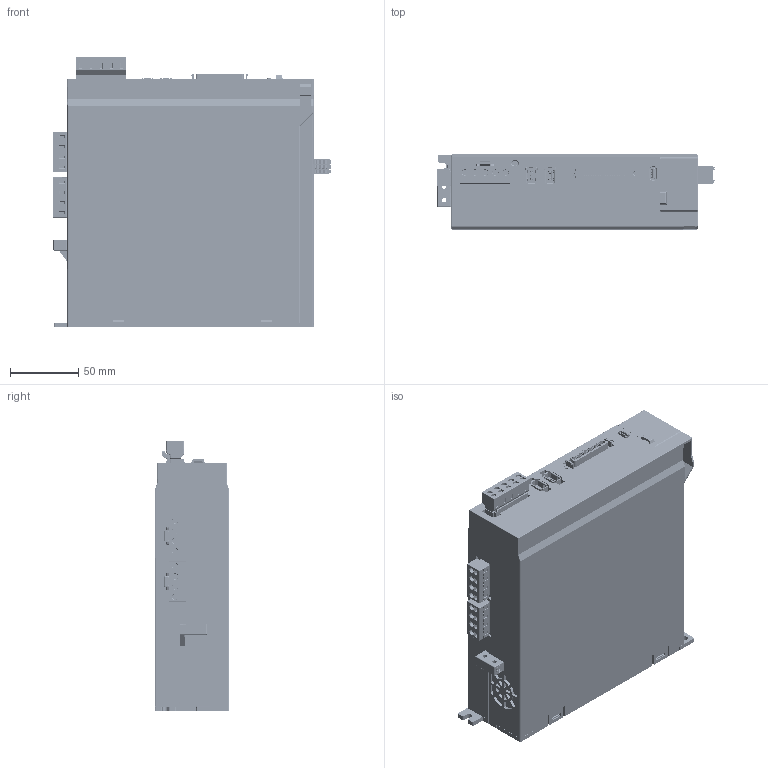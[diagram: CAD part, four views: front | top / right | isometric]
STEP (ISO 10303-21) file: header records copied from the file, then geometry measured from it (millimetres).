
FILE_DESCRIPTION((''),'2;1');
FILE_NAME('2ES3-04BAI_ASM','2026-03-03T13:31:35',('Admin'),(''),'CREO PARAMETRIC BY PTC INC, 2020074','CREO PARAMETRIC BY PTC INC, 2020074','');
FILE_SCHEMA(('CONFIG_CONTROL_DESIGN'));
Products named in the file (40): 2ES3-04BNI-DOWN; 2ES3-04BNI-PCB; USER_LIBRARY-53460-0611_S; 9EDGRC-7_5-05P-1Y-100Z_H__; 9EDGRC-7_5-04P-1Y-100Z_H; PRT0001; STGIB10CH60TS-L; D25SB80; 01008-UCAF004-A_TY0001; _X2_58515C014F53_X0_; TO-263_X2_684667B6_X0_-1462; TO-263_X2_684667B6_X0_-1463; TO-263_X2_684667B6_X0_-1464; TO-263_X2_684667B6_X0_-83_ASM; T020N065E_6__; D220E7L_5__; _X2_95215C42_X0_50UM-1488; _X2_95215C42_X0_50UM-1489; _X2_95215C42_X0_50UM-107_ASM; 12MIL_X2_94DD4E1D_X0_-115; 12MIL_X2_94DD4E1D_X0_-123; 5MIL_X2_94DD4E1D_X0_; 12MIL_X2_94DD4E1D_X0_-139; TO-263-JT020N065SED_1_ASM; TO-263-JT020N065SED_ASM; 15EDGRHC-THR-3_5-06P-1Y-1000Z_H; SCSI_CA-50P_9000; 2ES3-04BAI-PCBA_ASM; 2ES3-04BNI-DUCT; 9EDGK-7_5-04P-1Y-1000A_Z_H_; AS2E-PCB-K; 2ES3-04BAI-UP; COVER; RXLB-50W2C-50R-J; RXLB-75W-50R-J-3963; 3015-B; 2-RJ45; 9EDGK-7_5-05P-1Y-1000A_Z_H_; 15EDGKNH-3_5-06P-1Y-00A_Z_H_; 2ES3-04BAI_ASM
Assembly tree (42 placements, depth 6):
  2ES3-04BAI_ASM
    2ES3-04BNI-DOWN
    2ES3-04BAI-PCBA_ASM
      2ES3-04BNI-PCB
      USER_LIBRARY-53460-0611_S  x2
      9EDGRC-7_5-05P-1Y-100Z_H__
      9EDGRC-7_5-04P-1Y-100Z_H
      PRT0001
      STGIB10CH60TS-L  x2
      D25SB80
      01008-UCAF004-A_TY0001
      TO-263-JT020N065SED_ASM
        TO-263-JT020N065SED_1_ASM
          _X2_58515C014F53_X0_
          TO-263_X2_684667B6_X0_-83_ASM
            TO-263_X2_684667B6_X0_-1462
            TO-263_X2_684667B6_X0_-1463
            TO-263_X2_684667B6_X0_-1464
          T020N065E_6__
          D220E7L_5__
          _X2_95215C42_X0_50UM-107_ASM
            _X2_95215C42_X0_50UM-1488
            _X2_95215C42_X0_50UM-1489
          12MIL_X2_94DD4E1D_X0_-115
          12MIL_X2_94DD4E1D_X0_-123
          5MIL_X2_94DD4E1D_X0_
          12MIL_X2_94DD4E1D_X0_-139
      15EDGRHC-THR-3_5-06P-1Y-1000Z_H
      SCSI_CA-50P_9000
    2ES3-04BNI-DUCT
    9EDGK-7_5-04P-1Y-1000A_Z_H_  x2
    AS2E-PCB-K
    2ES3-04BAI-UP
    COVER
    RXLB-50W2C-50R-J
    RXLB-75W-50R-J-3963
    3015-B
    2-RJ45
    9EDGK-7_5-05P-1Y-1000A_Z_H_
    15EDGKNH-3_5-06P-1Y-00A_Z_H_
Bounding box: 204.3 x 55 x 198.69 mm (x, y, z)
Volume: 2007216.7 mm3; surface area: 413617.3 mm2
Topology: 37 solids, 59 shells, 12700 faces, 35925 edges, 23557 vertices
Faces by surface type: plane 9267, cylinder 2266, extrusion 291, cone 285, torus 267, bspline 233, sphere 91
Entity records: 383414 total; most frequent: CARTESIAN_POINT 88201, ORIENTED_EDGE 64198, DIRECTION 56720, EDGE_CURVE 32099, VECTOR 25794, LINE 25531, VERTEX_POINT 21125, AXIS2_PLACEMENT_3D 15463
